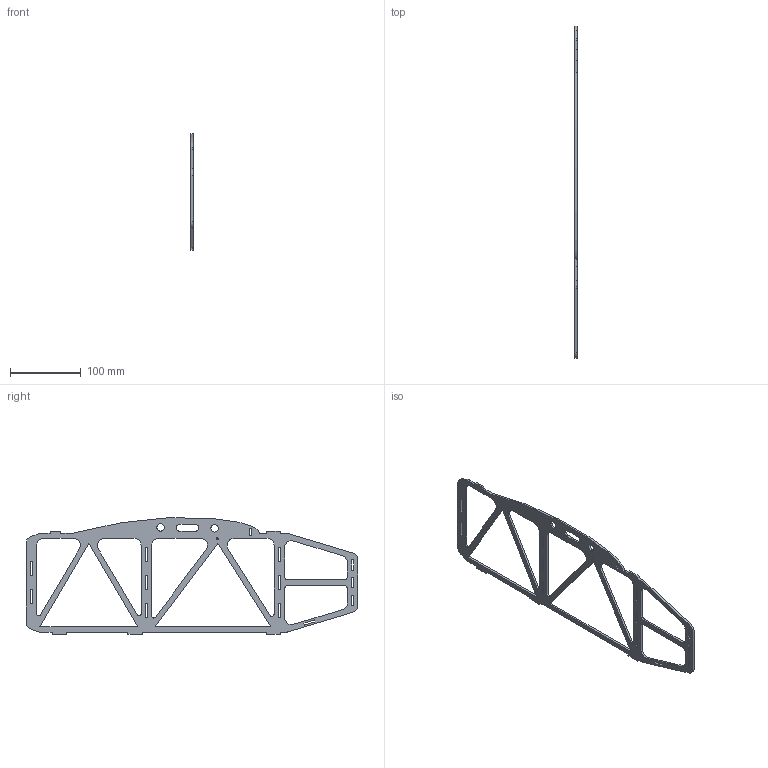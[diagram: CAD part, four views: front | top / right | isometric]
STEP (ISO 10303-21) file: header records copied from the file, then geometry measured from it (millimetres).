
FILE_DESCRIPTION(/* description */ (''),/* implementation_level */ '2;1');
FILE_NAME(/* name */ 'Side 1 v5.step',/* time_stamp */ '2023-09-02T21:54:55+03:00',/* author */ (''),/* organization */ (''),/* preprocessor_version */ 'ST-DEVELOPER v20',/* originating_system */ 'Autodesk Translation Framework v12.9.0.99',/* authorisation */ '');
FILE_SCHEMA (('AUTOMOTIVE_DESIGN { 1 0 10303 214 3 1 1 }'));
Length unit declared in the file: millimetre
Products named in the file (1): Side 3
Bounding box: 3 x 470.5 x 164.89 mm (x, y, z)
Volume: 68357.4 mm3; surface area: 58965.9 mm2
Topology: 1 solids, 1 shells, 145 faces, 429 edges, 286 vertices
Faces by surface type: plane 111, cylinder 33, bspline 1
Full cylindrical faces by diameter (mm): 3 x1, 10.5 x2
Entity records: 6145 total; most frequent: CARTESIAN_POINT 2078, ORIENTED_EDGE 858, DIRECTION 781, EDGE_CURVE 429, LINE 359, VECTOR 359, VERTEX_POINT 286, AXIS2_PLACEMENT_3D 211
